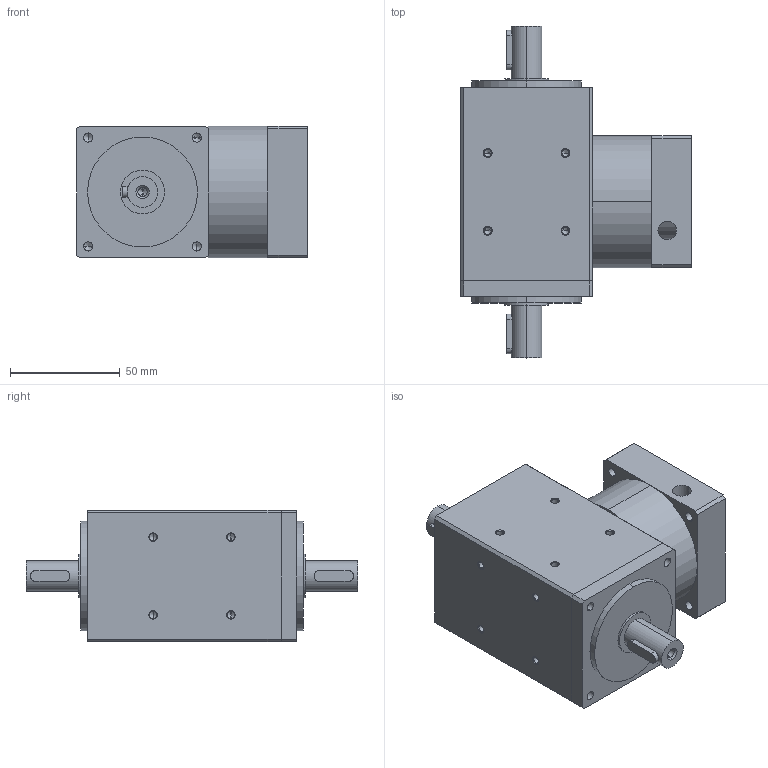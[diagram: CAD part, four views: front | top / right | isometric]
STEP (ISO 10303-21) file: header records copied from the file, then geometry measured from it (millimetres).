
FILE_DESCRIPTION (( 'STEP AP203' ), '1' );
FILE_NAME ('RABS-060.STEP', '2010-05-27T18:45:32', ( 'render' ), ( '' ), 'SwSTEP 2.0', 'SolidWorks 2009', '' );
FILE_SCHEMA (( 'CONFIG_CONTROL_DESIGN' ));
Length unit declared in the file: millimetre
Products named in the file (1): RABS-060
Bounding box: 105 x 151 x 60 mm (x, y, z)
Volume: 477643.5 mm3; surface area: 65868.1 mm2
Topology: 3 solids, 3 shells, 217 faces, 516 edges, 296 vertices
Faces by surface type: cylinder 103, cone 72, plane 42
Entity records: 6248 total; most frequent: CARTESIAN_POINT 1189, DIRECTION 1132, ORIENTED_EDGE 944, EDGE_CURVE 472, AXIS2_PLACEMENT_3D 448, VERTEX_POINT 296, EDGE_LOOP 270, LINE 236
